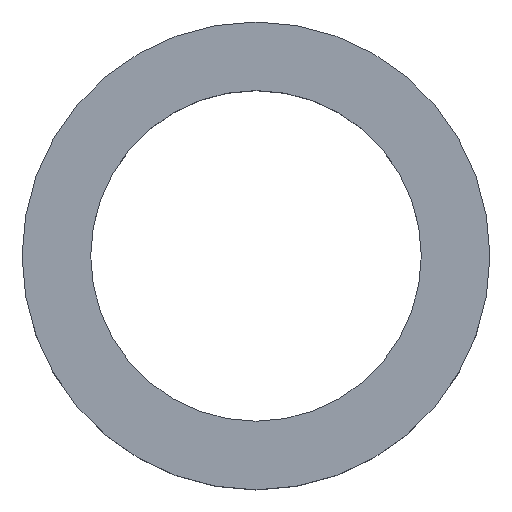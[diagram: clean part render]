
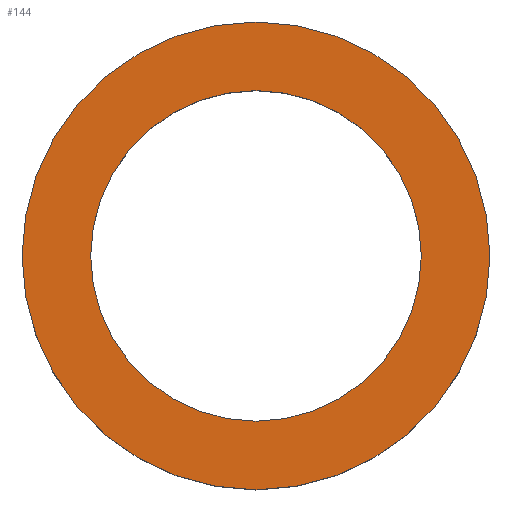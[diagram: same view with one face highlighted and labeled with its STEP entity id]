
A CAD part, top view. The second image highlights one B-rep face of the part: STEP entity #144.
In plain terms, the highlighted planar face has unit normal (0, 0, 1).
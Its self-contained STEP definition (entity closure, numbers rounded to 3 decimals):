
#24 = VERTEX_POINT('',#25);
#25 = CARTESIAN_POINT('',(7.5,3.75,1.8));
#32 = CYLINDRICAL_SURFACE('',#33,3.75);
#33 = AXIS2_PLACEMENT_3D('',#34,#35,#36);
#34 = CARTESIAN_POINT('',(3.75,3.75,0.));
#35 = DIRECTION('',(-0.,-0.,-1.));
#36 = DIRECTION('',(1.,0.,0.));
#51 = EDGE_CURVE('',#24,#24,#52,.T.);
#52 = SURFACE_CURVE('',#53,(#58,#65),.PCURVE_S1.);
#53 = CIRCLE('',#54,3.75);
#54 = AXIS2_PLACEMENT_3D('',#55,#56,#57);
#55 = CARTESIAN_POINT('',(3.75,3.75,1.8));
#56 = DIRECTION('',(0.,0.,1.));
#57 = DIRECTION('',(1.,0.,0.));
#58 = PCURVE('',#32,#59);
#59 = DEFINITIONAL_REPRESENTATION('',(#60),#64);
#60 = LINE('',#61,#62);
#61 = CARTESIAN_POINT('',(-0.,-1.8));
#62 = VECTOR('',#63,1.);
#63 = DIRECTION('',(-1.,0.));
#64 = ( GEOMETRIC_REPRESENTATION_CONTEXT(2) 
PARAMETRIC_REPRESENTATION_CONTEXT() REPRESENTATION_CONTEXT('2D SPACE',''
  ) );
#65 = PCURVE('',#66,#71);
#66 = PLANE('',#67);
#67 = AXIS2_PLACEMENT_3D('',#68,#69,#70);
#68 = CARTESIAN_POINT('',(3.75,3.75,1.8));
#69 = DIRECTION('',(0.,0.,1.));
#70 = DIRECTION('',(1.,0.,-0.));
#71 = DEFINITIONAL_REPRESENTATION('',(#72),#76);
#72 = CIRCLE('',#73,3.75);
#73 = AXIS2_PLACEMENT_2D('',#74,#75);
#74 = CARTESIAN_POINT('',(0.,0.));
#75 = DIRECTION('',(1.,0.));
#76 = ( GEOMETRIC_REPRESENTATION_CONTEXT(2) 
PARAMETRIC_REPRESENTATION_CONTEXT() REPRESENTATION_CONTEXT('2D SPACE',''
  ) );
#133 = CYLINDRICAL_SURFACE('',#134,2.65);
#134 = AXIS2_PLACEMENT_3D('',#135,#136,#137);
#135 = CARTESIAN_POINT('',(3.75,3.75,-0.5));
#136 = DIRECTION('',(-0.,-0.,-1.));
#137 = DIRECTION('',(1.,0.,0.));
#144 = ADVANCED_FACE('',(#145,#148),#66,.T.);
#145 = FACE_BOUND('',#146,.T.);
#146 = EDGE_LOOP('',(#147));
#147 = ORIENTED_EDGE('',*,*,#51,.T.);
#148 = FACE_BOUND('',#149,.T.);
#149 = EDGE_LOOP('',(#150));
#150 = ORIENTED_EDGE('',*,*,#151,.T.);
#151 = EDGE_CURVE('',#152,#152,#154,.T.);
#152 = VERTEX_POINT('',#153);
#153 = CARTESIAN_POINT('',(6.4,3.75,1.8));
#154 = SURFACE_CURVE('',#155,(#160,#171),.PCURVE_S1.);
#155 = CIRCLE('',#156,2.65);
#156 = AXIS2_PLACEMENT_3D('',#157,#158,#159);
#157 = CARTESIAN_POINT('',(3.75,3.75,1.8));
#158 = DIRECTION('',(0.,0.,-1.));
#159 = DIRECTION('',(1.,0.,0.));
#160 = PCURVE('',#66,#161);
#161 = DEFINITIONAL_REPRESENTATION('',(#162),#170);
#162 = ( BOUNDED_CURVE() B_SPLINE_CURVE(2,(#163,#164,#165,#166,#167,#168
,#169),.UNSPECIFIED.,.T.,.F.) B_SPLINE_CURVE_WITH_KNOTS((1,2,2,2,2,1),(
    -2.094,0.,2.094,4.189,6.283,
8.378),.UNSPECIFIED.) CURVE() GEOMETRIC_REPRESENTATION_ITEM() 
RATIONAL_B_SPLINE_CURVE((1.,0.5,1.,0.5,1.,0.5,1.)) REPRESENTATION_ITEM(
  '') );
#163 = CARTESIAN_POINT('',(2.65,0.));
#164 = CARTESIAN_POINT('',(2.65,-4.59));
#165 = CARTESIAN_POINT('',(-1.325,-2.295));
#166 = CARTESIAN_POINT('',(-5.3,0.));
#167 = CARTESIAN_POINT('',(-1.325,2.295));
#168 = CARTESIAN_POINT('',(2.65,4.59));
#169 = CARTESIAN_POINT('',(2.65,0.));
#170 = ( GEOMETRIC_REPRESENTATION_CONTEXT(2) 
PARAMETRIC_REPRESENTATION_CONTEXT() REPRESENTATION_CONTEXT('2D SPACE',''
  ) );
#171 = PCURVE('',#133,#172);
#172 = DEFINITIONAL_REPRESENTATION('',(#173),#177);
#173 = LINE('',#174,#175);
#174 = CARTESIAN_POINT('',(-6.283,-2.3));
#175 = VECTOR('',#176,1.);
#176 = DIRECTION('',(1.,-0.));
#177 = ( GEOMETRIC_REPRESENTATION_CONTEXT(2) 
PARAMETRIC_REPRESENTATION_CONTEXT() REPRESENTATION_CONTEXT('2D SPACE',''
  ) );
